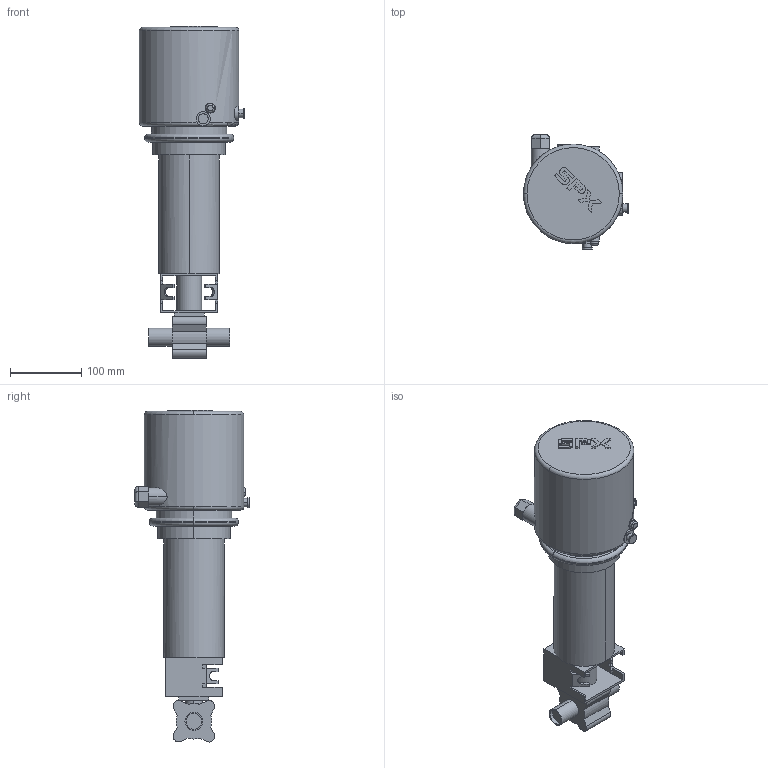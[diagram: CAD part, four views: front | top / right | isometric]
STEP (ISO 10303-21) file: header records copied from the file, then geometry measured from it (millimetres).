
FILE_DESCRIPTION(('Creo Elements/Direct Modeling STEP Export'),'2;1');
FILE_NAME('BLV1-1T-NC-12S-CU4.stp','2019-05-10T 8:11:20',(''),(''),'Creo Elements/Direct Modeling STEP processor for AP214 (Solid Model)','Creo Elements/Direct Modeling 19.0F 14-Feb-2017 (C) Parametric Technology GmbH','');
FILE_SCHEMA(('AUTOMOTIVE_DESIGN { 1 0 10303 214 1 1 1 1 }'));
Length unit declared in the file: millimetre
Products named in the file (2): BLV1-1T-NC-12S-CU4
Assembly tree (1 placements, depth 2):
  BLV1-1T-NC-12S-CU4
    BLV1-1T-NC-12S-CU4
Bounding box: 148 x 161.4 x 467.21 mm (x, y, z)
Volume: 3735312.1 mm3; surface area: 228536.8 mm2
Topology: 1 solids, 1 shells, 227 faces, 581 edges, 379 vertices
Faces by surface type: cylinder 110, plane 104, torus 10, extrusion 3
Full cylindrical faces by diameter (mm): 140 x1
Entity records: 10050 total; most frequent: CARTESIAN_POINT 4519, ORIENTED_EDGE 1166, DIRECTION 1051, EDGE_CURVE 583, AXIS2_PLACEMENT_3D 385, VERTEX_POINT 379, VECTOR 281, LINE 278
